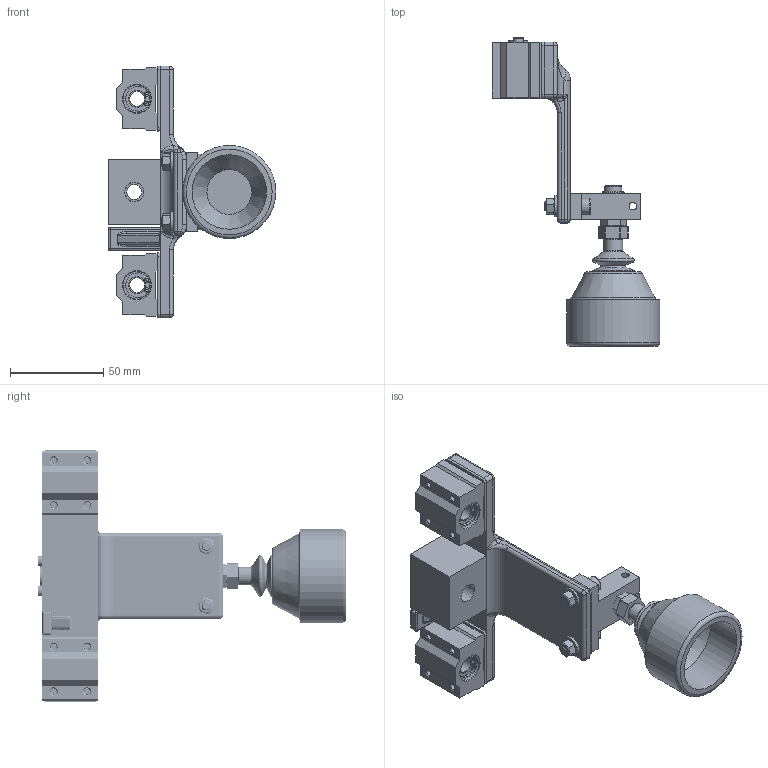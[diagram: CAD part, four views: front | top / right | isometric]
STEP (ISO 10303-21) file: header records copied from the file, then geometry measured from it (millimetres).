
FILE_DESCRIPTION(/* description */ (''),/* implementation_level */ '2;1');
FILE_NAME(/* name */ 'Z-Axis End Effector Only.stp',/* time_stamp */ '2026-11-15T11:15:30+02:00',/* author */ ('Ahmed'),/* organization */ (''),/* preprocessor_version */ 'ST-DEVELOPER v20.2',/* originating_system */ 'Autodesk Inventor 2027',/* authorisation */ '');
FILE_SCHEMA (('AUTOMOTIVE_DESIGN { 1 0 10303 214 3 1 1 }'));
Products named in the file (21): Z-Axis; t8_nut_housing; SCS8UU Block, Linear Bearing, 8mm; Linear Bearing Spacer; T8 nut; ISO 4762 - M3 x 12; SK12 SHAFT HOLDER; Suction Cup Fixation; Suction; Suction-ohne-nippel; nippel; ISO 4762 - M4 x 8; ISO 4762 - M4 x 16; ISO 4762 - M5 x 20; Product Base; IPCF06-02; body; release_ring; ISO 4762 - M4 x 12; ISO 4032 - M5; ANSI B18.22M - 5 N
Assembly tree (35 placements, depth 3):
  Z-Axis
    SCS8UU Block, Linear Bearing, 8mm  x2
    t8_nut_housing
    Linear Bearing Spacer  x2
    T8 nut
    ISO 4762 - M3 x 12  x2
    SK12 SHAFT HOLDER
    Suction Cup Fixation
    Suction
      Suction-ohne-nippel
      nippel
    ISO 4762 - M4 x 12  x8
    ISO 4762 - M4 x 8  x2
    ISO 4762 - M4 x 16  x2
    ISO 4762 - M5 x 20  x2
    Product Base
    IPCF06-02
      body
      release_ring
    ISO 4032 - M5  x2
    ANSI B18.22M - 5 N  x2
Bounding box: 90 x 165.7 x 135 mm (x, y, z)
Volume: 164591.8 mm3; surface area: 80717.4 mm2
Topology: 40 solids, 40 shells, 1171 faces, 3326 edges, 2283 vertices
Faces by surface type: cylinder 591, plane 395, cone 75, torus 52, bspline 45, sphere 13
Full cylindrical faces by diameter (mm): 1.7 x8, 2.459 x38, 3 x44, 3.242 x36, 3.332 x96, 3.5 x4, 4 x50, 4.109 x88, 4.134 x2, 4.5 x20, 5 x2, 5.5 x7, 5.6 x2, 6 x4, 7 x12, 8 x15, 8.5 x2, 9 x5, 10 x2, 10.2 x2, 10.3 x1, 10.74 x1, 11 x2, 11.445 x1, 12 x1, 13.5 x4, 14.3 x4, 15 x12, 15.7 x4, 22 x2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
Entity records: 67839 total; most frequent: CARTESIAN_POINT 49336, ORIENTED_EDGE 4002, DIRECTION 3284, EDGE_CURVE 2001, VERTEX_POINT 1352, AXIS2_PLACEMENT_3D 1266, EDGE_LOOP 857, LINE 752
